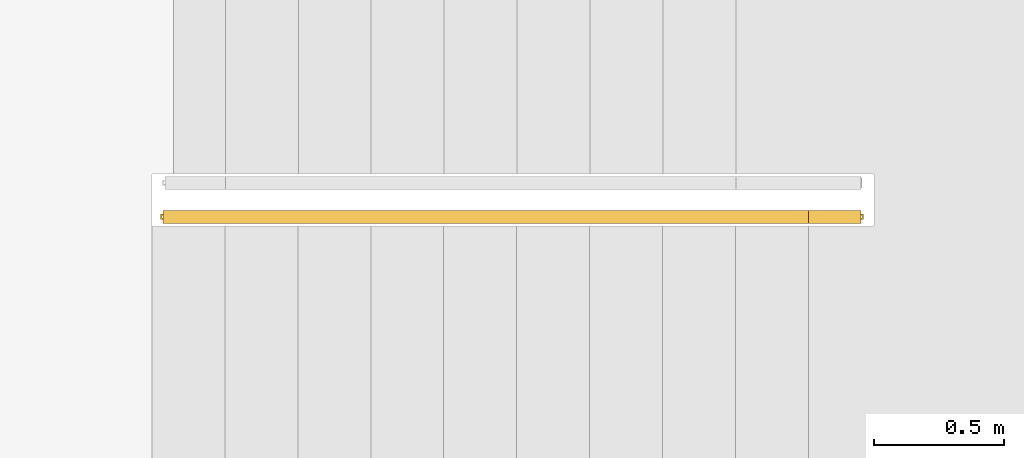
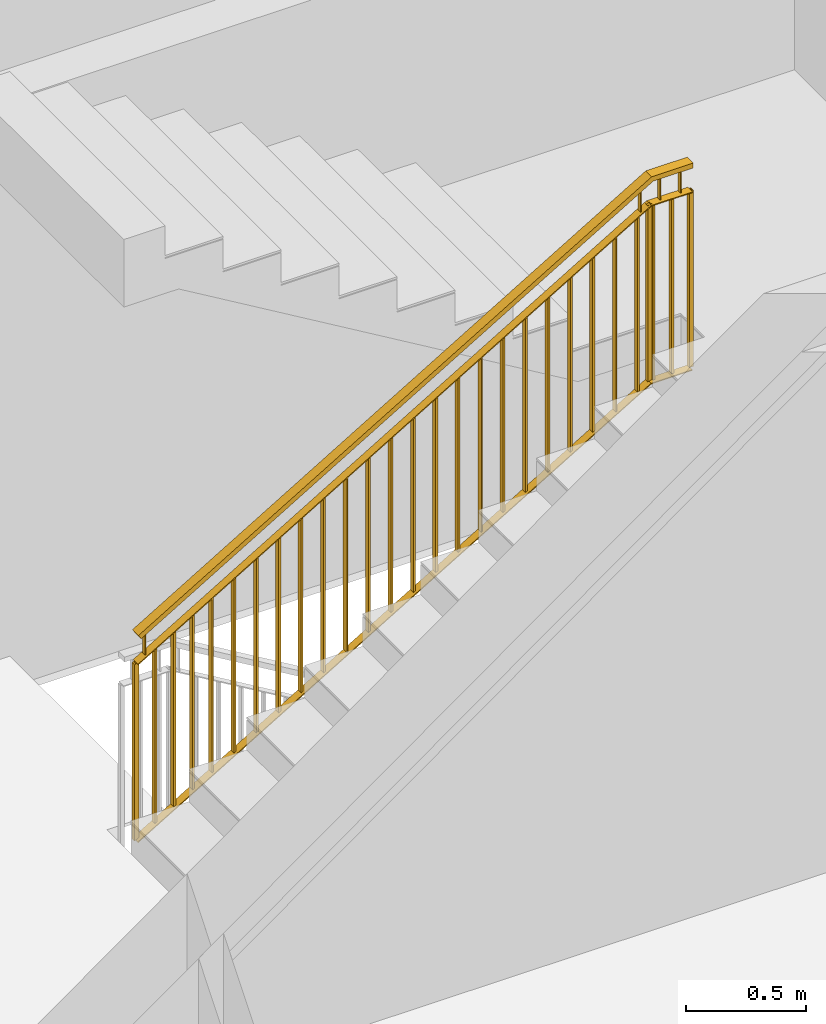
# One storey, part 4 of 66: 1 railing.
"""IFC2X3 building model written with IfcOpenShell, lengths in millimetres."""

from ifc_helpers import new_model, entity, si_unit, converted_unit, derived_unit, money_unit, direction, frame, origin_with_axes, place, context, subcontext, project, spatial, faceted_brep, material, material_list, type_object, element, save


model = new_model("IFC2X3")

# Units and contexts
model_context = context("Model", 3, precision=0.01, world=origin_with_axes(), true_north=direction((0.34421633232, 0.938890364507)))
body_context = subcontext(model_context, "Body", "Model", "MODEL_VIEW")
ifc_project = project(units=[si_unit("LENGTHUNIT", "METRE", prefix="MILLI"), si_unit("AREAUNIT", "SQUARE_METRE"), si_unit("VOLUMEUNIT", "CUBIC_METRE"), converted_unit("PLANEANGLEUNIT", "DEGREE", entity("IfcPlaneAngleMeasure", 0.0174532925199), si_unit("PLANEANGLEUNIT", "RADIAN"), dimensions=[0, 0, 0, 0, 0, 0, 0]), si_unit("SOLIDANGLEUNIT", "STERADIAN"), money_unit("USD"), converted_unit("TIMEUNIT", "Year", entity("IfcTimeMeasure", 31556926.0), si_unit("TIMEUNIT", "SECOND"), dimensions=[0, 0, 1, 0, 0, 0, 0]), si_unit("MASSUNIT", "GRAM", prefix="KILO"), si_unit("THERMODYNAMICTEMPERATUREUNIT", "DEGREE_CELSIUS"), si_unit("LUMINOUSINTENSITYUNIT", "LUMEN"), si_unit("ENERGYUNIT", "JOULE", prefix="MEGA"), derived_unit("THERMALCONDUCTANCEUNIT", [(si_unit("POWERUNIT", "WATT"), 1), (si_unit("LENGTHUNIT", "METRE"), -1), (si_unit("THERMODYNAMICTEMPERATUREUNIT", "KELVIN"), -1)]), derived_unit("SPECIFICHEATCAPACITYUNIT", [(si_unit("ENERGYUNIT", "JOULE"), 1), (si_unit("MASSUNIT", "GRAM", prefix="KILO"), -1), (si_unit("THERMODYNAMICTEMPERATUREUNIT", "KELVIN"), -1)]), derived_unit("MASSDENSITYUNIT", [(si_unit("MASSUNIT", "GRAM", prefix="KILO"), 1), (si_unit("VOLUMEUNIT", "CUBIC_METRE"), -1)])], contexts=[model_context])

# Site, building, storey
site_placement = place(None, origin_with_axes())
site = spatial("IfcSite", under=ifc_project, at=site_placement, Name="USTRONIE MORSKIE", CompositionType="ELEMENT")
building_placement = place(site_placement, origin_with_axes())
building = spatial("IfcBuilding", under=site, at=building_placement, Name="Budynek", CompositionType="ELEMENT")
storey_placement = place(building_placement, frame((0.0, 0.0, 10000.0), z_axis=(0.0, 0.0, 1.0), x_axis=(1.0, 0.0, 0.0)))
storey = spatial("IfcBuildingStorey", under=building, at=storey_placement, Name="PIĘTRO 3", CompositionType="ELEMENT", Elevation=10000.0)

# Railing
ifc_material_1 = material(Name="Stal konstrukcyjna")
ifc_material_2 = material(Name="Stal nierdzewna")
ifc_material_list = material_list([ifc_material_1, ifc_material_1, ifc_material_1, ifc_material_2, ifc_material_2, ifc_material_2, ifc_material_1, ifc_material_1, ifc_material_2, ifc_material_2, ifc_material_2, ifc_material_1, ifc_material_1, ifc_material_1, ifc_material_1, ifc_material_1, ifc_material_1, ifc_material_1, ifc_material_1, ifc_material_1, ifc_material_1, ifc_material_1, ifc_material_1, ifc_material_1, ifc_material_1, ifc_material_1, ifc_material_1, ifc_material_1, ifc_material_1, ifc_material_1, ifc_material_1, ifc_material_1, ifc_material_1, ifc_material_1])
railing_type = type_object("IfcRailingType", Name="Typ balustrady", PredefinedType="NOTDEFINED")
railing_placement = place(storey_placement, frame((365667.920919, 728301.199022, 192.0), z_axis=(0.0, 0.0, 1.0), x_axis=(1.0, 0.0, 0.0)))
element("IfcRailing", 1, at=railing_placement, inside=storey, type_object=railing_type, material=ifc_material_list, Name="BL1", PredefinedType="NOTDEFINED", context=body_context, shape_type="Brep", body=[
    faceted_brep([(-60.0, 45.0, 1324.4388337), (-60.0, 25.0, 1324.4388337), (-60.0, 25.0, 2224.4388337), (-60.0, 45.0, 2224.4388337), (-40.0, 45.0, 1324.4388337), (-40.0, 25.0, 1324.4388337), (-55.0, 40.0, 1324.4388337), (-55.0, 30.0, 1324.4388337), (-45.0, 30.0, 1324.4388337), (-45.0, 40.0, 1324.4388337), (-40.0, 25.0, 2224.4388337), (-40.0, 45.0, 2224.4388337), (-55.0, 40.0, 2224.4388337), (-45.0, 40.0, 2224.4388337), (-45.0, 30.0, 2224.4388337), (-55.0, 30.0, 2224.4388337)], [[[0, 1, 2, 3]], [[0, 4, 5, 1], [6, 7, 8, 9]], [[1, 5, 10, 2]], [[3, 2, 10, 11], [12, 13, 14, 15]], [[4, 0, 3, 11]], [[5, 4, 11, 10]], [[7, 6, 12, 15]], [[8, 7, 15, 14]], [[9, 8, 14, 13]], [[6, 9, 13, 12]]]),
    faceted_brep([(-260.0, 45.0, 1321.68950513), (-260.0, 25.0, 1321.68950513), (-260.0, 25.0, 2221.68950513), (-260.0, 45.0, 2221.68950513), (-240.0, 45.0, 1327.18816226), (-240.0, 25.0, 1327.18816226), (-255.0, 40.0, 1323.06416941), (-255.0, 30.0, 1323.06416941), (-245.0, 30.0, 1325.81349798), (-245.0, 40.0, 1325.81349798), (-240.0, 25.0, 2227.18816226), (-240.0, 45.0, 2227.18816226), (-255.0, 40.0, 2223.06416941), (-245.0, 40.0, 2225.81349798), (-245.0, 30.0, 2225.81349798), (-255.0, 30.0, 2223.06416941)], [[[0, 1, 2, 3]], [[0, 4, 5, 1], [6, 7, 8, 9]], [[1, 5, 10, 2]], [[3, 2, 10, 11], [12, 13, 14, 15]], [[4, 0, 3, 11]], [[5, 4, 11, 10]], [[7, 6, 12, 15]], [[8, 7, 15, 14]], [[9, 8, 14, 13]], [[6, 9, 13, 12]]]),
    faceted_brep([(-2738.76673491, 44.9999999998, -155.948275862), (-2738.76673491, 24.9999999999, -155.948275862), (-2738.76673491, 24.9999999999, 744.051724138), (-2738.76673491, 44.9999999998, 744.051724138), (-2718.76673491, 44.9999999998, -144.051724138), (-2718.76673491, 24.9999999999, -144.051724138), (-2733.76673491, 39.9999999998, -152.974137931), (-2733.76673491, 29.9999999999, -152.974137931), (-2723.76673491, 29.9999999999, -147.025862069), (-2723.76673491, 39.9999999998, -147.025862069), (-2718.76673491, 24.9999999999, 755.948275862), (-2718.76673491, 44.9999999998, 755.948275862), (-2733.76673491, 39.9999999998, 747.025862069), (-2723.76673491, 39.9999999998, 752.974137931), (-2723.76673491, 29.9999999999, 752.974137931), (-2733.76673491, 29.9999999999, 747.025862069)], [[[0, 1, 2, 3]], [[0, 4, 5, 1], [6, 7, 8, 9]], [[1, 5, 10, 2]], [[3, 2, 10, 11], [12, 13, 14, 15]], [[4, 0, 3, 11]], [[5, 4, 11, 10]], [[7, 6, 12, 15]], [[8, 7, 15, 14]], [[9, 8, 14, 13]], [[6, 9, 13, 12]]]),
    faceted_brep([(-50.0, 59.9999999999, 2374.4388337), (-50.0, 59.9999999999, 2349.4388337), (-243.12667858, 59.9999999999, 2349.4388337), (-250.0, 59.9999999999, 2374.4388337), (-50.0, 9.99999999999, 2374.4388337), (-50.0, 9.99999999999, 2349.4388337), (-50.0, 25.0, 2349.4388337), (-50.0, 25.0, 2354.4388337), (-50.0, 45.0, 2354.4388337), (-50.0, 45.0, 2349.4388337), (-243.12667858, 45.0, 2349.4388337), (-244.501342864, 45.0, 2354.4388337), (-244.501342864, 25.0, 2354.4388337), (-243.12667858, 25.0, 2349.4388337), (-243.12667858, 9.99999999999, 2349.4388337), (-250.0, 9.99999999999, 2374.4388337)], [[[0, 1, 2, 3]], [[0, 4, 5, 6, 7, 8, 9, 1]], [[1, 9, 10, 2]], [[3, 2, 10, 11, 12, 13, 14, 15]], [[4, 0, 3, 15]], [[5, 4, 15, 14]], [[6, 5, 14, 13]], [[7, 6, 13, 12]], [[8, 7, 12, 11]], [[9, 8, 11, 10]]]),
    faceted_brep([(-50.0, 45.0, 2349.4388337), (-50.0, 25.0, 2349.4388337), (-243.12667858, 25.0, 2349.4388337), (-243.12667858, 45.0, 2349.4388337), (-50.0, 45.0, 2354.4388337), (-50.0, 25.0, 2354.4388337), (-244.501342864, 25.0, 2354.4388337), (-244.501342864, 45.0, 2354.4388337)], [[[0, 1, 2, 3]], [[0, 4, 5, 1]], [[1, 5, 6, 2]], [[3, 2, 6, 7]], [[4, 0, 3, 7]], [[5, 4, 7, 6]]]),
    faceted_brep([(-102.5, 45.0, 2229.4388337), (-102.5, 25.0, 2229.4388337), (-102.5, 25.0, 2349.4388337), (-102.5, 45.0, 2349.4388337), (-97.5, 45.0, 2229.4388337), (-97.5, 25.0, 2229.4388337), (-97.5, 25.0, 2349.4388337), (-97.5, 45.0, 2349.4388337)], [[[0, 1, 2, 3]], [[0, 4, 5, 1]], [[1, 5, 6, 2]], [[3, 2, 6, 7]], [[4, 0, 3, 7]], [[5, 4, 7, 6]]]),
    faceted_brep([(-202.5, 45.0, 2229.4388337), (-202.5, 25.0, 2229.4388337), (-202.5, 25.0, 2349.4388337), (-202.5, 45.0, 2349.4388337), (-197.5, 45.0, 2229.4388337), (-197.5, 25.0, 2229.4388337), (-197.5, 25.0, 2349.4388337), (-197.5, 45.0, 2349.4388337)], [[[0, 1, 2, 3]], [[0, 4, 5, 1]], [[1, 5, 6, 2]], [[3, 2, 6, 7]], [[4, 0, 3, 7]], [[5, 4, 7, 6]]]),
    faceted_brep([(-50.0, 54.9999999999, 2224.4388337), (-50.0, 54.9999999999, 2219.4388337), (-248.625335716, 54.9999999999, 2219.4388337), (-250.0, 54.9999999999, 2224.4388337), (-50.0, 15.0, 2224.4388337), (-50.0, 15.0, 2219.4388337), (-248.625335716, 15.0, 2219.4388337), (-250.0, 15.0, 2224.4388337)], [[[0, 1, 2, 3]], [[0, 4, 5, 1]], [[1, 5, 6, 2]], [[3, 2, 6, 7]], [[4, 0, 3, 7]], [[5, 4, 7, 6]]]),
    faceted_brep([(-50.0, 54.9999999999, 1316.9388337), (-50.0, 54.9999999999, 1311.9388337), (-249.312667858, 54.9999999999, 1311.9388337), (-250.687332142, 54.9999999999, 1316.9388337), (-50.0, 15.0, 1316.9388337), (-50.0, 15.0, 1311.9388337), (-249.312667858, 15.0, 1311.9388337), (-250.687332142, 15.0, 1316.9388337)], [[[0, 1, 2, 3]], [[0, 4, 5, 1]], [[1, 5, 6, 2]], [[3, 2, 6, 7]], [[4, 0, 3, 7]], [[5, 4, 7, 6]]]),
    faceted_brep([(-146.095841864, 47.5, 1324.4388337), (-146.095841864, 22.4999999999, 1324.4388337), (-146.095841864, 22.4999999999, 2214.4388337), (-146.095841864, 47.5, 2214.4388337), (-136.095841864, 47.5, 1324.4388337), (-136.095841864, 22.4999999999, 1324.4388337), (-136.095841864, 22.4999999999, 2214.4388337), (-136.095841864, 47.5, 2214.4388337)], [[[0, 1, 2, 3]], [[0, 4, 5, 1]], [[1, 5, 6, 2]], [[3, 2, 6, 7]], [[4, 0, 3, 7]], [[5, 4, 7, 6]]]),
    faceted_brep([(-237.191683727, 47.5, 1324.4388337), (-237.191683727, 22.4999999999, 1324.4388337), (-237.191683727, 22.4999999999, 2214.4388337), (-237.191683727, 47.5, 2214.4388337), (-227.191683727, 47.5, 1324.4388337), (-227.191683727, 22.4999999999, 1324.4388337), (-227.191683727, 22.4999999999, 2214.4388337), (-227.191683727, 47.5, 2214.4388337)], [[[0, 1, 2, 3]], [[0, 4, 5, 1]], [[1, 5, 6, 2]], [[3, 2, 6, 7]], [[4, 0, 3, 7]], [[5, 4, 7, 6]]]),
    faceted_brep([(-250.0, 59.9999999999, 2374.4388337), (-243.12667858, 59.9999999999, 2349.4388337), (-2715.98615176, 59.9999999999, 878.513802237), (-2728.76673491, 59.9999999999, 900.0), (-250.0, 9.99999999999, 2374.4388337), (-243.12667858, 9.99999999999, 2349.4388337), (-243.12667858, 25.0, 2349.4388337), (-244.501342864, 25.0, 2354.4388337), (-244.501342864, 45.0, 2354.4388337), (-243.12667858, 45.0, 2349.4388337), (-2715.98615176, 45.0, 878.513802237), (-2718.54226839, 45.0, 882.81104179), (-2718.54226839, 25.0, 882.81104179), (-2715.98615176, 25.0, 878.513802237), (-2715.98615176, 9.99999999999, 878.513802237), (-2728.76673491, 9.99999999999, 900.0)], [[[0, 1, 2, 3]], [[0, 4, 5, 6, 7, 8, 9, 1]], [[1, 9, 10, 2]], [[3, 2, 10, 11, 12, 13, 14, 15]], [[4, 0, 3, 15]], [[5, 4, 15, 14]], [[6, 5, 14, 13]], [[7, 6, 13, 12]], [[8, 7, 12, 11]], [[9, 8, 11, 10]]]),
    faceted_brep([(-243.12667858, 45.0, 2349.4388337), (-243.12667858, 25.0, 2349.4388337), (-2715.98615176, 25.0, 878.513802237), (-2715.98615176, 45.0, 878.513802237), (-244.501342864, 45.0, 2354.4388337), (-244.501342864, 25.0, 2354.4388337), (-2718.54226839, 25.0, 882.81104179), (-2718.54226839, 45.0, 882.81104179)], [[[0, 1, 2, 3]], [[0, 4, 5, 1]], [[1, 5, 6, 2]], [[3, 2, 6, 7]], [[4, 0, 3, 7]], [[5, 4, 7, 6]]]),
    faceted_brep([(-295.472395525, 45.0, 2199.7892262), (-295.472395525, 25.0, 2199.7892262), (-295.472395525, 25.0, 2319.7892262), (-295.472395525, 45.0, 2319.7892262), (-290.472395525, 45.0, 2199.7892262), (-290.472395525, 25.0, 2199.7892262), (-290.472395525, 25.0, 2321.27629517), (-292.972395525, 25.0, 2321.27629517), (-292.972395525, 45.0, 2321.27629517), (-290.472395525, 45.0, 2321.27629517)], [[[0, 1, 2, 3]], [[0, 4, 5, 1]], [[1, 5, 6, 7, 2]], [[7, 8, 3, 2]], [[4, 0, 3, 8, 9]], [[5, 4, 9, 6]], [[7, 6, 9, 8]]]),
    faceted_brep([(-2688.29433938, 45.0, 776.472725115), (-2688.29433938, 25.0, 776.472725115), (-2688.29433938, 25.0, 896.472725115), (-2688.29433938, 45.0, 896.472725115), (-2683.29433938, 45.0, 776.472725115), (-2683.29433938, 25.0, 776.472725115), (-2683.29433938, 25.0, 897.95979408), (-2685.79433938, 25.0, 897.95979408), (-2685.79433938, 45.0, 897.95979408), (-2683.29433938, 45.0, 897.95979408)], [[[0, 1, 2, 3]], [[0, 4, 5, 1]], [[1, 5, 6, 7, 2]], [[7, 8, 3, 2]], [[4, 0, 3, 8, 9]], [[5, 4, 9, 6]], [[7, 6, 9, 8]]]),
    faceted_brep([(-250.0, 54.9999999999, 2224.4388337), (-248.625335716, 54.9999999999, 2219.4388337), (-2726.21061828, 54.9999999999, 745.702760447), (-2728.76673491, 54.9999999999, 750.0), (-250.0, 15.0, 2224.4388337), (-248.625335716, 15.0, 2219.4388337), (-2726.21061828, 15.0, 745.702760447), (-2728.76673491, 15.0, 750.0)], [[[0, 1, 2, 3]], [[0, 4, 5, 1]], [[1, 5, 6, 2]], [[3, 2, 6, 7]], [[4, 0, 3, 7]], [[5, 4, 7, 6]]]),
    faceted_brep([(-250.687332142, 54.9999999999, 1316.9388337), (-249.312667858, 54.9999999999, 1311.9388337), (-2727.48867659, 54.9999999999, -162.148619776), (-2730.04479322, 54.9999999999, -157.851380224), (-250.687332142, 15.0, 1316.9388337), (-249.312667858, 15.0, 1311.9388337), (-2727.48867659, 15.0, -162.148619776), (-2730.04479322, 15.0, -157.851380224)], [[[0, 1, 2, 3]], [[0, 4, 5, 1]], [[1, 5, 6, 2]], [[3, 2, 6, 7]], [[4, 0, 3, 7]], [[5, 4, 7, 6]]]),
    faceted_brep([(-311.050034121, 47.5, 1288.12458926), (-311.050034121, 22.4999999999, 1288.12458926), (-311.050034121, 22.4999999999, 2178.12458926), (-311.050034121, 47.5, 2178.12458926), (-301.050034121, 47.5, 1294.07286512), (-301.050034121, 22.4999999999, 1294.07286512), (-301.050034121, 22.4999999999, 2184.07286512), (-301.050034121, 47.5, 2184.07286512)], [[[0, 1, 2, 3]], [[0, 4, 5, 1]], [[1, 5, 6, 2]], [[3, 2, 6, 7]], [[4, 0, 3, 7]], [[5, 4, 7, 6]]]),
    faceted_brep([(-416.883367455, 50.0, 1225.17200305), (-416.883367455, 20.0, 1225.17200305), (-416.883367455, 20.0, 2115.17200305), (-416.883367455, 50.0, 2115.17200305), (-411.883367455, 50.0, 1228.14614099), (-411.883367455, 20.0, 1228.14614099), (-411.883367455, 20.0, 2118.14614099), (-411.883367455, 50.0, 2118.14614099)], [[[0, 1, 2, 3]], [[0, 4, 5, 1]], [[1, 5, 6, 2]], [[3, 2, 6, 7]], [[4, 0, 3, 7]], [[5, 4, 7, 6]]]),
    faceted_brep([(-527.716700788, 47.5, 1159.24527892), (-527.716700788, 22.4999999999, 1159.24527892), (-527.716700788, 22.4999999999, 2049.24527892), (-527.716700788, 47.5, 2049.24527892), (-517.716700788, 47.5, 1165.19355478), (-517.716700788, 22.4999999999, 1165.19355478), (-517.716700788, 22.4999999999, 2055.19355478), (-517.716700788, 47.5, 2055.19355478)], [[[0, 1, 2, 3]], [[0, 4, 5, 1]], [[1, 5, 6, 2]], [[3, 2, 6, 7]], [[4, 0, 3, 7]], [[5, 4, 7, 6]]]),
    faceted_brep([(-636.050034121, 47.5, 1094.80562374), (-636.050034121, 22.4999999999, 1094.80562374), (-636.050034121, 22.4999999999, 1984.80562374), (-636.050034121, 47.5, 1984.80562374), (-626.050034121, 47.5, 1100.75389961), (-626.050034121, 22.4999999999, 1100.75389961), (-626.050034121, 22.4999999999, 1990.75389961), (-626.050034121, 47.5, 1990.75389961)], [[[0, 1, 2, 3]], [[0, 4, 5, 1]], [[1, 5, 6, 2]], [[3, 2, 6, 7]], [[4, 0, 3, 7]], [[5, 4, 7, 6]]]),
    faceted_brep([(-744.383367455, 47.5, 1030.36596857), (-744.383367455, 22.4999999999, 1030.36596857), (-744.383367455, 22.4999999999, 1920.36596857), (-744.383367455, 47.5, 1920.36596857), (-734.383367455, 47.5, 1036.31424443), (-734.383367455, 22.4999999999, 1036.31424443), (-734.383367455, 22.4999999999, 1926.31424443), (-734.383367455, 47.5, 1926.31424443)], [[[0, 1, 2, 3]], [[0, 4, 5, 1]], [[1, 5, 6, 2]], [[3, 2, 6, 7]], [[4, 0, 3, 7]], [[5, 4, 7, 6]]]),
    faceted_brep([(-852.716700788, 47.5, 965.9263134), (-852.716700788, 22.4999999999, 965.9263134), (-852.716700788, 22.4999999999, 1855.9263134), (-852.716700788, 47.5, 1855.9263134), (-842.716700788, 47.5, 971.874589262), (-842.716700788, 22.4999999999, 971.874589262), (-842.716700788, 22.4999999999, 1861.87458926), (-842.716700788, 47.5, 1861.87458926)], [[[0, 1, 2, 3]], [[0, 4, 5, 1]], [[1, 5, 6, 2]], [[3, 2, 6, 7]], [[4, 0, 3, 7]], [[5, 4, 7, 6]]]),
    faceted_brep([(-961.050034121, 47.5, 901.486658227), (-961.050034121, 22.4999999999, 901.486658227), (-961.050034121, 22.4999999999, 1791.48665823), (-961.050034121, 47.5, 1791.48665823), (-951.050034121, 47.5, 907.434934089), (-951.050034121, 22.4999999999, 907.434934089), (-951.050034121, 22.4999999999, 1797.43493409), (-951.050034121, 47.5, 1797.43493409)], [[[0, 1, 2, 3]], [[0, 4, 5, 1]], [[1, 5, 6, 2]], [[3, 2, 6, 7]], [[4, 0, 3, 7]], [[5, 4, 7, 6]]]),
    faceted_brep([(-1066.88336745, 50.0, 838.53407202), (-1066.88336745, 20.0, 838.53407202), (-1066.88336745, 20.0, 1728.53407202), (-1066.88336745, 50.0, 1728.53407202), (-1061.88336745, 50.0, 841.508209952), (-1061.88336745, 20.0, 841.508209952), (-1061.88336745, 20.0, 1731.50820995), (-1061.88336745, 50.0, 1731.50820995)], [[[0, 1, 2, 3]], [[0, 4, 5, 1]], [[1, 5, 6, 2]], [[3, 2, 6, 7]], [[4, 0, 3, 7]], [[5, 4, 7, 6]]]),
    faceted_brep([(-1177.71670079, 47.5, 772.607347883), (-1177.71670079, 22.4999999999, 772.607347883), (-1177.71670079, 22.4999999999, 1662.60734788), (-1177.71670079, 47.5, 1662.60734788), (-1167.71670079, 47.5, 778.555623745), (-1167.71670079, 22.4999999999, 778.555623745), (-1167.71670079, 22.4999999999, 1668.55562374), (-1167.71670079, 47.5, 1668.55562374)], [[[0, 1, 2, 3]], [[0, 4, 5, 1]], [[1, 5, 6, 2]], [[3, 2, 6, 7]], [[4, 0, 3, 7]], [[5, 4, 7, 6]]]),
    faceted_brep([(-1286.05003412, 47.5, 708.16769271), (-1286.05003412, 22.4999999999, 708.16769271), (-1286.05003412, 22.4999999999, 1598.16769271), (-1286.05003412, 47.5, 1598.16769271), (-1276.05003412, 47.5, 714.115968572), (-1276.05003412, 22.4999999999, 714.115968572), (-1276.05003412, 22.4999999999, 1604.11596857), (-1276.05003412, 47.5, 1604.11596857)], [[[0, 1, 2, 3]], [[0, 4, 5, 1]], [[1, 5, 6, 2]], [[3, 2, 6, 7]], [[4, 0, 3, 7]], [[5, 4, 7, 6]]]),
    faceted_brep([(-1394.38336745, 47.5, 643.728037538), (-1394.38336745, 22.4999999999, 643.728037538), (-1394.38336745, 22.4999999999, 1533.72803754), (-1394.38336745, 47.5, 1533.72803754), (-1384.38336745, 47.5, 649.6763134), (-1384.38336745, 22.4999999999, 649.6763134), (-1384.38336745, 22.4999999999, 1539.6763134), (-1384.38336745, 47.5, 1539.6763134)], [[[0, 1, 2, 3]], [[0, 4, 5, 1]], [[1, 5, 6, 2]], [[3, 2, 6, 7]], [[4, 0, 3, 7]], [[5, 4, 7, 6]]]),
    faceted_brep([(-1502.71670079, 47.4999999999, 579.288382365), (-1502.71670079, 22.4999999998, 579.288382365), (-1502.71670079, 22.4999999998, 1469.28838237), (-1502.71670079, 47.4999999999, 1469.28838237), (-1492.71670079, 47.4999999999, 585.236658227), (-1492.71670079, 22.4999999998, 585.236658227), (-1492.71670079, 22.4999999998, 1475.23665823), (-1492.71670079, 47.4999999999, 1475.23665823)], [[[0, 1, 2, 3]], [[0, 4, 5, 1]], [[1, 5, 6, 2]], [[3, 2, 6, 7]], [[4, 0, 3, 7]], [[5, 4, 7, 6]]]),
    faceted_brep([(-1611.05003412, 47.4999999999, 514.848727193), (-1611.05003412, 22.4999999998, 514.848727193), (-1611.05003412, 22.4999999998, 1404.84872719), (-1611.05003412, 47.4999999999, 1404.84872719), (-1601.05003412, 47.4999999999, 520.797003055), (-1601.05003412, 22.4999999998, 520.797003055), (-1601.05003412, 22.4999999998, 1410.79700305), (-1601.05003412, 47.4999999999, 1410.79700305)], [[[0, 1, 2, 3]], [[0, 4, 5, 1]], [[1, 5, 6, 2]], [[3, 2, 6, 7]], [[4, 0, 3, 7]], [[5, 4, 7, 6]]]),
    faceted_brep([(-1716.88336745, 49.9999999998, 451.896140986), (-1716.88336745, 19.9999999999, 451.896140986), (-1716.88336745, 19.9999999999, 1341.89614099), (-1716.88336745, 49.9999999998, 1341.89614099), (-1711.88336745, 49.9999999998, 454.870278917), (-1711.88336745, 19.9999999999, 454.870278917), (-1711.88336745, 19.9999999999, 1344.87027892), (-1711.88336745, 49.9999999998, 1344.87027892)], [[[0, 1, 2, 3]], [[0, 4, 5, 1]], [[1, 5, 6, 2]], [[3, 2, 6, 7]], [[4, 0, 3, 7]], [[5, 4, 7, 6]]]),
    faceted_brep([(-1827.71670079, 47.4999999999, 385.969416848), (-1827.71670079, 22.4999999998, 385.969416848), (-1827.71670079, 22.4999999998, 1275.96941685), (-1827.71670079, 47.4999999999, 1275.96941685), (-1817.71670079, 47.4999999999, 391.91769271), (-1817.71670079, 22.4999999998, 391.91769271), (-1817.71670079, 22.4999999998, 1281.91769271), (-1817.71670079, 47.4999999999, 1281.91769271)], [[[0, 1, 2, 3]], [[0, 4, 5, 1]], [[1, 5, 6, 2]], [[3, 2, 6, 7]], [[4, 0, 3, 7]], [[5, 4, 7, 6]]]),
    faceted_brep([(-1936.05003412, 47.4999999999, 321.529761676), (-1936.05003412, 22.4999999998, 321.529761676), (-1936.05003412, 22.4999999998, 1211.52976168), (-1936.05003412, 47.4999999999, 1211.52976168), (-1926.05003412, 47.4999999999, 327.478037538), (-1926.05003412, 22.4999999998, 327.478037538), (-1926.05003412, 22.4999999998, 1217.47803754), (-1926.05003412, 47.4999999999, 1217.47803754)], [[[0, 1, 2, 3]], [[0, 4, 5, 1]], [[1, 5, 6, 2]], [[3, 2, 6, 7]], [[4, 0, 3, 7]], [[5, 4, 7, 6]]]),
    faceted_brep([(-2044.38336745, 47.4999999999, 257.090106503), (-2044.38336745, 22.4999999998, 257.090106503), (-2044.38336745, 22.4999999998, 1147.0901065), (-2044.38336745, 47.4999999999, 1147.0901065), (-2034.38336745, 47.4999999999, 263.038382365), (-2034.38336745, 22.4999999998, 263.038382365), (-2034.38336745, 22.4999999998, 1153.03838237), (-2034.38336745, 47.4999999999, 1153.03838237)], [[[0, 1, 2, 3]], [[0, 4, 5, 1]], [[1, 5, 6, 2]], [[3, 2, 6, 7]], [[4, 0, 3, 7]], [[5, 4, 7, 6]]]),
    faceted_brep([(-2152.71670079, 47.4999999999, 192.650451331), (-2152.71670079, 22.4999999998, 192.650451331), (-2152.71670079, 22.4999999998, 1082.65045133), (-2152.71670079, 47.4999999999, 1082.65045133), (-2142.71670079, 47.4999999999, 198.598727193), (-2142.71670079, 22.4999999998, 198.598727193), (-2142.71670079, 22.4999999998, 1088.59872719), (-2142.71670079, 47.4999999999, 1088.59872719)], [[[0, 1, 2, 3]], [[0, 4, 5, 1]], [[1, 5, 6, 2]], [[3, 2, 6, 7]], [[4, 0, 3, 7]], [[5, 4, 7, 6]]]),
    faceted_brep([(-2261.05003412, 47.4999999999, 128.210796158), (-2261.05003412, 22.4999999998, 128.210796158), (-2261.05003412, 22.4999999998, 1018.21079616), (-2261.05003412, 47.4999999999, 1018.21079616), (-2251.05003412, 47.4999999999, 134.15907202), (-2251.05003412, 22.4999999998, 134.15907202), (-2251.05003412, 22.4999999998, 1024.15907202), (-2251.05003412, 47.4999999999, 1024.15907202)], [[[0, 1, 2, 3]], [[0, 4, 5, 1]], [[1, 5, 6, 2]], [[3, 2, 6, 7]], [[4, 0, 3, 7]], [[5, 4, 7, 6]]]),
    faceted_brep([(-2366.88336745, 49.9999999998, 65.2582099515), (-2366.88336745, 19.9999999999, 65.2582099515), (-2366.88336745, 19.9999999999, 955.258209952), (-2366.88336745, 49.9999999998, 955.258209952), (-2361.88336745, 49.9999999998, 68.2323478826), (-2361.88336745, 19.9999999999, 68.2323478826), (-2361.88336745, 19.9999999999, 958.232347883), (-2361.88336745, 49.9999999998, 958.232347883)], [[[0, 1, 2, 3]], [[0, 4, 5, 1]], [[1, 5, 6, 2]], [[3, 2, 6, 7]], [[4, 0, 3, 7]], [[5, 4, 7, 6]]]),
    faceted_brep([(-2460.47920932, 47.4999999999, 9.58482125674), (-2460.47920932, 22.4999999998, 9.58482125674), (-2460.47920932, 22.4999999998, 899.584821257), (-2460.47920932, 47.4999999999, 899.584821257), (-2450.47920932, 47.4999999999, 15.5330971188), (-2450.47920932, 22.4999999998, 15.5330971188), (-2450.47920932, 22.4999999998, 905.533097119), (-2450.47920932, 47.4999999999, 905.533097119)], [[[0, 1, 2, 3]], [[0, 4, 5, 1]], [[1, 5, 6, 2]], [[3, 2, 6, 7]], [[4, 0, 3, 7]], [[5, 4, 7, 6]]]),
    faceted_brep([(-2551.57505118, 47.4999999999, -44.6014984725), (-2551.57505118, 22.4999999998, -44.6014984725), (-2551.57505118, 22.4999999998, 845.398501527), (-2551.57505118, 47.4999999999, 845.398501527), (-2541.57505118, 47.4999999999, -38.6532226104), (-2541.57505118, 22.4999999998, -38.6532226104), (-2541.57505118, 22.4999999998, 851.34677739), (-2541.57505118, 47.4999999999, 851.34677739)], [[[0, 1, 2, 3]], [[0, 4, 5, 1]], [[1, 5, 6, 2]], [[3, 2, 6, 7]], [[4, 0, 3, 7]], [[5, 4, 7, 6]]]),
    faceted_brep([(-2642.67089305, 47.4999999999, -98.7878182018), (-2642.67089305, 22.4999999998, -98.7878182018), (-2642.67089305, 22.4999999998, 791.212181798), (-2642.67089305, 47.4999999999, 791.212181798), (-2632.67089305, 47.4999999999, -92.8395423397), (-2632.67089305, 22.4999999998, -92.8395423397), (-2632.67089305, 22.4999999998, 797.16045766), (-2632.67089305, 47.4999999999, 797.16045766)], [[[0, 1, 2, 3]], [[0, 4, 5, 1]], [[1, 5, 6, 2]], [[3, 2, 6, 7]], [[4, 0, 3, 7]], [[5, 4, 7, 6]]]),
])

save(model, "model.ifc")
